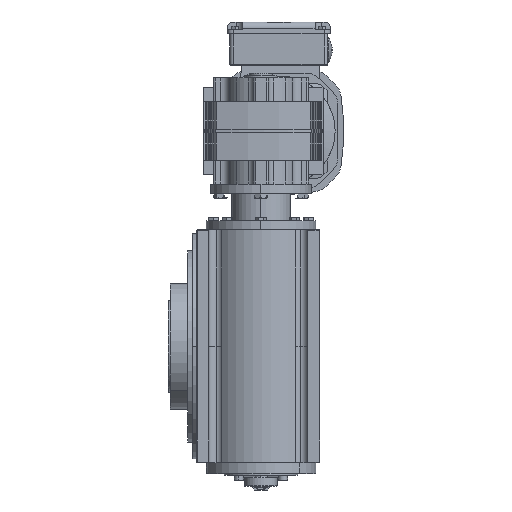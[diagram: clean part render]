
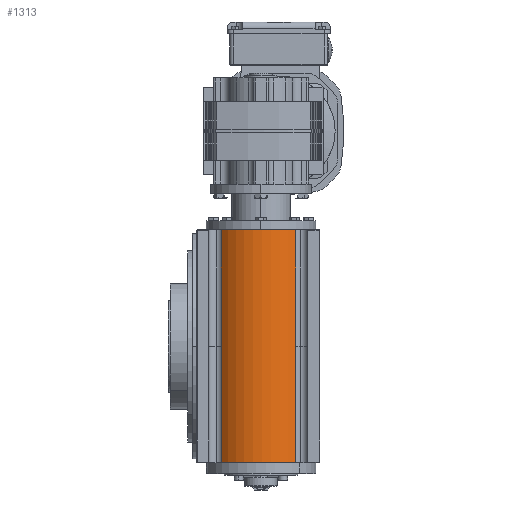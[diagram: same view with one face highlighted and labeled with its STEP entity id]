
A CAD part, left-side view. The second image highlights one B-rep face of the part: STEP entity #1313.
In plain terms, the highlighted cylindrical face has radius 60 mm (diameter 120 mm), a partial arc.
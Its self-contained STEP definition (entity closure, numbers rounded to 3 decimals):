
#31 = VECTOR ( 'NONE', #17678, 1000. ) ;
#515 = VERTEX_POINT ( 'NONE', #55978 ) ;
#1313 = ADVANCED_FACE ( 'NONE', ( #59239 ), #17839, .T. ) ;
#3234 = DIRECTION ( 'NONE',  ( 0., 0., -1. ) ) ;
#3381 = CARTESIAN_POINT ( 'NONE',  ( -131.481, 26.059, 0. ) ) ;
#8089 = DIRECTION ( 'NONE',  ( -1., 0., 0. ) ) ;
#9476 = AXIS2_PLACEMENT_3D ( 'NONE', #21838, #44990, #8089 ) ;
#10671 = ORIENTED_EDGE ( 'NONE', *, *, #46836, .T. ) ;
#11112 = VECTOR ( 'NONE', #3234, 1000. ) ;
#11160 = LINE ( 'NONE', #76101, #31 ) ;
#11311 = DIRECTION ( 'NONE',  ( 1., 0., 0. ) ) ;
#12647 = LINE ( 'NONE', #36102, #13797 ) ;
#13797 = VECTOR ( 'NONE', #31142, 1000. ) ;
#16442 = CARTESIAN_POINT ( 'NONE',  ( -126.602, 107.235, -121.981 ) ) ;
#17678 = DIRECTION ( 'NONE',  ( 0., 0., 1. ) ) ;
#17839 = CYLINDRICAL_SURFACE ( 'NONE', #48400, 60. ) ;
#20628 = CARTESIAN_POINT ( 'NONE',  ( -126.602, 107.235, -121.981 ) ) ;
#21838 = CARTESIAN_POINT ( 'NONE',  ( -85., 64., -127. ) ) ;
#23111 = EDGE_CURVE ( 'NONE', #515, #67551, #27983, .T. ) ;
#23966 = EDGE_CURVE ( 'NONE', #37500, #58671, #12647, .T. ) ;
#25781 = ORIENTED_EDGE ( 'NONE', *, *, #23966, .T. ) ;
#27674 = AXIS2_PLACEMENT_3D ( 'NONE', #46803, #63873, #58813 ) ;
#27983 = CIRCLE ( 'NONE', #9476, 60. ) ;
#30903 = ORIENTED_EDGE ( 'NONE', *, *, #55358, .T. ) ;
#31142 = DIRECTION ( 'NONE',  ( 0., 0., 1. ) ) ;
#31712 = ORIENTED_EDGE ( 'NONE', *, *, #23111, .F. ) ;
#33229 = CARTESIAN_POINT ( 'NONE',  ( -126.602, 107.235, -127. ) ) ;
#33701 = VERTEX_POINT ( 'NONE', #51861 ) ;
#34232 = CARTESIAN_POINT ( 'NONE',  ( -131.481, 26.059, 127. ) ) ;
#34321 = EDGE_CURVE ( 'NONE', #33701, #58671, #61068, .T. ) ;
#36102 = CARTESIAN_POINT ( 'NONE',  ( -131.481, 26.059, -121.981 ) ) ;
#37500 = VERTEX_POINT ( 'NONE', #3381 ) ;
#41347 = CARTESIAN_POINT ( 'NONE',  ( -85., 64., -121.981 ) ) ;
#44990 = DIRECTION ( 'NONE',  ( 0., 0., -1. ) ) ;
#46803 = CARTESIAN_POINT ( 'NONE',  ( -85., 64., 127. ) ) ;
#46836 = EDGE_CURVE ( 'NONE', #515, #37500, #11160, .T. ) ;
#47446 = VECTOR ( 'NONE', #63667, 1000. ) ;
#48400 = AXIS2_PLACEMENT_3D ( 'NONE', #41347, #76270, #11311 ) ;
#50614 = EDGE_CURVE ( 'NONE', #33701, #73397, #68704, .T. ) ;
#51074 = ORIENTED_EDGE ( 'NONE', *, *, #50614, .T. ) ;
#51861 = CARTESIAN_POINT ( 'NONE',  ( -126.602, 107.235, 127. ) ) ;
#55358 = EDGE_CURVE ( 'NONE', #73397, #67551, #73633, .T. ) ;
#55978 = CARTESIAN_POINT ( 'NONE',  ( -131.481, 26.059, -127. ) ) ;
#58671 = VERTEX_POINT ( 'NONE', #34232 ) ;
#58813 = DIRECTION ( 'NONE',  ( 1., 0., 0. ) ) ;
#59239 = FACE_OUTER_BOUND ( 'NONE', #68222, .T. ) ;
#61068 = CIRCLE ( 'NONE', #27674, 60. ) ;
#63583 = CARTESIAN_POINT ( 'NONE',  ( -126.602, 107.235, 0. ) ) ;
#63667 = DIRECTION ( 'NONE',  ( 0., 0., -1. ) ) ;
#63873 = DIRECTION ( 'NONE',  ( 0., 0., 1. ) ) ;
#65108 = ORIENTED_EDGE ( 'NONE', *, *, #34321, .F. ) ;
#67551 = VERTEX_POINT ( 'NONE', #33229 ) ;
#68222 = EDGE_LOOP ( 'NONE', ( #10671, #25781, #65108, #51074, #30903, #31712 ) ) ;
#68704 = LINE ( 'NONE', #16442, #47446 ) ;
#73397 = VERTEX_POINT ( 'NONE', #63583 ) ;
#73633 = LINE ( 'NONE', #20628, #11112 ) ;
#76101 = CARTESIAN_POINT ( 'NONE',  ( -131.481, 26.059, -121.981 ) ) ;
#76270 = DIRECTION ( 'NONE',  ( 0., 0., 1. ) ) ;
